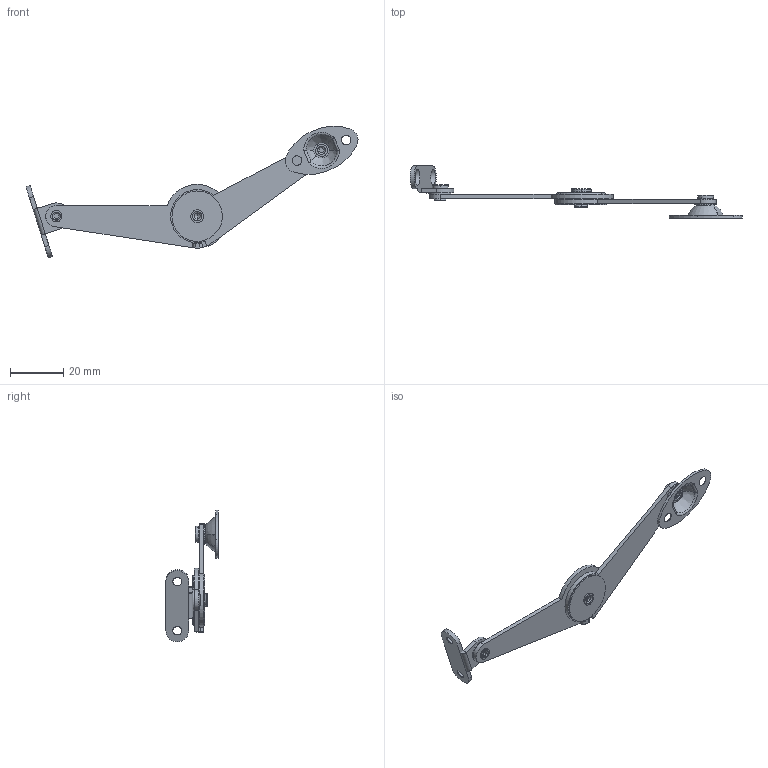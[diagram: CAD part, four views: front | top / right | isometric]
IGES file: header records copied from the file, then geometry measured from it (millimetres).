
Global section: file name: HNo Iges File Name specified; native system: AutoDesk Inventor R11.0; preprocessor: AutoDesk Inventor Iges Exporter R11.0; author: No Author specified; organization: No Organization specified; date: 20130711.154645; units: millimetre
Bounding box: 125.02 x 19.7 x 49.49 mm (x, y, z)
Volume: 4216 mm3; surface area: 7608.4 mm2
Topology: 12 solids, 12 shells, 220 faces, 515 edges, 325 vertices
Faces by surface type: plane 61, cylinder 61, revolution 45, torus 28, bspline 21, sphere 4
